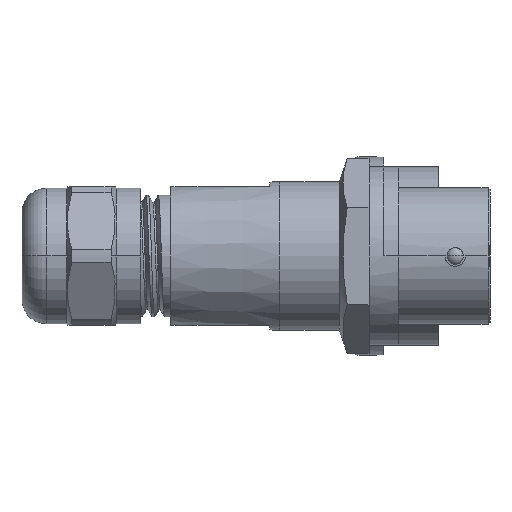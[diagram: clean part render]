
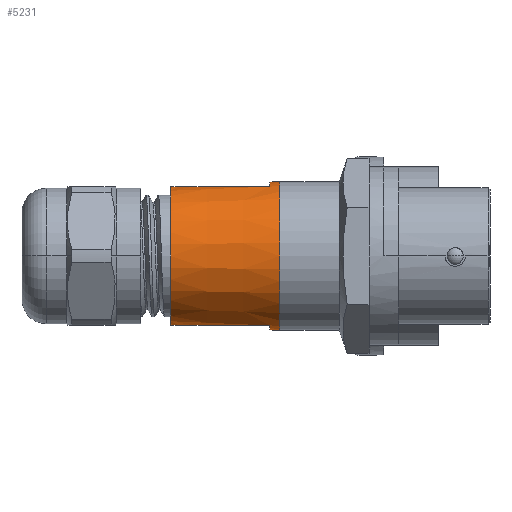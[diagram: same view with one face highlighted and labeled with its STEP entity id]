
A CAD part, front view. The second image highlights one B-rep face of the part: STEP entity #5231.
In plain terms, the highlighted conical face has half-angle 2.603 degrees and reference radius 7.25 mm.
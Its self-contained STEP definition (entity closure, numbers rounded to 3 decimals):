
#1662=CARTESIAN_POINT('',(-9.7,0.,0.));
#1663=DIRECTION('',(1.,0.,0.));
#1664=DIRECTION('',(0.,0.,1.));
#1665=AXIS2_PLACEMENT_3D('',#1662,#1663,#1664);
#1667=DIRECTION('',(-0.999,0.,0.045));
#1668=VECTOR('',#1667,1.001);
#1669=CARTESIAN_POINT('',(-9.7,0.,-7.5));
#1670=LINE('',#1669,#1668);
#1671=CARTESIAN_POINT('',(-10.7,-2.563,-7.));
#1672=CARTESIAN_POINT('',(-11.028,-2.52,
-7.));
#1673=CARTESIAN_POINT('',(-11.658,-2.435,
-7.));
#1674=CARTESIAN_POINT('',(-12.523,-2.312,
-7.));
#1675=CARTESIAN_POINT('',(-13.317,-2.194,
-7.));
#1676=CARTESIAN_POINT('',(-14.045,-2.081,
-7.));
#1677=CARTESIAN_POINT('',(-14.713,-1.972,
-7.));
#1678=CARTESIAN_POINT('',(-15.326,-1.866,
-7.));
#1679=CARTESIAN_POINT('',(-15.888,-1.764,
-7.));
#1680=CARTESIAN_POINT('',(-16.403,-1.666,
-7.));
#1681=CARTESIAN_POINT('',(-16.875,-1.571,
-7.));
#1682=CARTESIAN_POINT('',(-17.307,-1.478,
-7.));
#1683=CARTESIAN_POINT('',(-17.703,-1.389,
-7.));
#1684=CARTESIAN_POINT('',(-18.066,-1.301,
-7.));
#1685=CARTESIAN_POINT('',(-18.398,-1.216,
-7.));
#1686=CARTESIAN_POINT('',(-18.7,-1.133,
-7.));
#1687=CARTESIAN_POINT('',(-18.976,-1.051,
-7.));
#1688=CARTESIAN_POINT('',(-19.227,-0.972,
-7.));
#1689=CARTESIAN_POINT('',(-19.454,-0.893,
-7.));
#1690=CARTESIAN_POINT('',(-19.659,-0.816,
-7.));
#1691=CARTESIAN_POINT('',(-19.844,-0.74,
-7.));
#1692=CARTESIAN_POINT('',(-20.009,-0.665,
-7.));
#1693=CARTESIAN_POINT('',(-20.155,-0.591,
-7.));
#1694=CARTESIAN_POINT('',(-20.284,-0.517,
-7.));
#1695=CARTESIAN_POINT('',(-20.396,-0.442,
-7.));
#1696=CARTESIAN_POINT('',(-20.491,-0.368,
-7.));
#1697=CARTESIAN_POINT('',(-20.569,-0.292,
-7.));
#1698=CARTESIAN_POINT('',(-20.629,-0.217,
-7.));
#1699=CARTESIAN_POINT('',(-20.671,-0.142,
-7.));
#1700=CARTESIAN_POINT('',(-20.695,-0.068,
-7.));
#1701=CARTESIAN_POINT('',(-20.7,-0.022,
-7.));
#1702=CARTESIAN_POINT('',(-20.7,0.,-7.));
#1709=CARTESIAN_POINT('',(-10.7,0.,0.));
#1710=DIRECTION('',(1.,0.,0.));
#1711=DIRECTION('',(0.,0.,1.));
#1712=AXIS2_PLACEMENT_3D('',#1709,#1710,#1711);
#1745=CARTESIAN_POINT('',(-20.7,0.,7.));
#1752=DIRECTION('',(-0.999,0.,-0.045));
#1753=VECTOR('',#1752,1.001);
#1754=CARTESIAN_POINT('',(-9.7,0.,7.5));
#1755=LINE('',#1754,#1753);
#1760=CARTESIAN_POINT('',(-10.7,-2.563,7.));
#1761=CARTESIAN_POINT('',(-11.028,-2.52,
7.));
#1762=CARTESIAN_POINT('',(-11.658,-2.435,
7.));
#1763=CARTESIAN_POINT('',(-12.523,-2.312,
7.));
#1764=CARTESIAN_POINT('',(-13.317,-2.194,
7.));
#1765=CARTESIAN_POINT('',(-14.045,-2.081,
7.));
#1766=CARTESIAN_POINT('',(-14.713,-1.972,
7.));
#1767=CARTESIAN_POINT('',(-15.326,-1.866,
7.));
#1768=CARTESIAN_POINT('',(-15.888,-1.764,
7.));
#1769=CARTESIAN_POINT('',(-16.403,-1.666,
7.));
#1770=CARTESIAN_POINT('',(-16.875,-1.571,
7.));
#1771=CARTESIAN_POINT('',(-17.307,-1.478,
7.));
#1772=CARTESIAN_POINT('',(-17.703,-1.389,
7.));
#1773=CARTESIAN_POINT('',(-18.066,-1.301,
7.));
#1774=CARTESIAN_POINT('',(-18.398,-1.216,
7.));
#1775=CARTESIAN_POINT('',(-18.7,-1.133,
7.));
#1776=CARTESIAN_POINT('',(-18.976,-1.051,
7.));
#1777=CARTESIAN_POINT('',(-19.227,-0.972,
7.));
#1778=CARTESIAN_POINT('',(-19.454,-0.893,
7.));
#1779=CARTESIAN_POINT('',(-19.659,-0.816,
7.));
#1780=CARTESIAN_POINT('',(-19.844,-0.74,
7.));
#1781=CARTESIAN_POINT('',(-20.009,-0.665,
7.));
#1782=CARTESIAN_POINT('',(-20.155,-0.591,
7.));
#1783=CARTESIAN_POINT('',(-20.284,-0.517,
7.));
#1784=CARTESIAN_POINT('',(-20.396,-0.442,
7.));
#1785=CARTESIAN_POINT('',(-20.491,-0.368,
7.));
#1786=CARTESIAN_POINT('',(-20.569,-0.292,
7.));
#1787=CARTESIAN_POINT('',(-20.629,-0.217,
7.));
#1788=CARTESIAN_POINT('',(-20.671,-0.142,
7.));
#1789=CARTESIAN_POINT('',(-20.695,-0.068,
7.));
#1790=CARTESIAN_POINT('',(-20.7,-0.022,7.));
#1791=CARTESIAN_POINT('',(-20.7,0.,7.));
#1798=CARTESIAN_POINT('',(-20.7,0.,0.));
#1799=DIRECTION('',(1.,0.,0.));
#1800=DIRECTION('',(0.,0.,1.));
#1801=AXIS2_PLACEMENT_3D('',#1798,#1799,#1800);
#2581=CARTESIAN_POINT('',(-10.7,0.,0.));
#2582=DIRECTION('',(1.,0.,0.));
#2583=DIRECTION('',(0.,-0.344,-0.939));
#2584=AXIS2_PLACEMENT_3D('',#2581,#2582,#2583);
#2587=CARTESIAN_POINT('',(-10.7,0.,7.455));
#2589=VERTEX_POINT('',#2587);
#2590=VERTEX_POINT('',#1745);
#2591=CARTESIAN_POINT('',(-20.7,0.,-7.));
#2592=VERTEX_POINT('',#2591);
#2594=CARTESIAN_POINT('',(-10.7,0.,-7.455));
#2595=VERTEX_POINT('',#2594);
#2596=CARTESIAN_POINT('',(-9.7,0.,-7.5));
#2597=VERTEX_POINT('',#2596);
#2598=CARTESIAN_POINT('',(-9.7,0.,7.5));
#2599=VERTEX_POINT('',#2598);
#2600=CARTESIAN_POINT('',(-10.7,-2.563,7.));
#2601=VERTEX_POINT('',#2600);
#2602=CARTESIAN_POINT('',(-10.7,-2.563,-7.));
#2603=VERTEX_POINT('',#2602);
#5209=CARTESIAN_POINT('',(-15.2,0.,0.));
#5210=DIRECTION('',(1.,0.,0.));
#5211=DIRECTION('',(0.,0.,1.));
#5212=AXIS2_PLACEMENT_3D('',#5209,#5210,#5211);
#5213=CONICAL_SURFACE('',#5212,7.25,2.603);
#5215=ORIENTED_EDGE('',*,*,#5214,.F.);
#5217=ORIENTED_EDGE('',*,*,#5216,.F.);
#5218=ORIENTED_EDGE('',*,*,#5031,.T.);
#5220=ORIENTED_EDGE('',*,*,#5219,.T.);
#5222=ORIENTED_EDGE('',*,*,#5221,.F.);
#5224=ORIENTED_EDGE('',*,*,#5223,.T.);
#5226=ORIENTED_EDGE('',*,*,#5225,.F.);
#5228=ORIENTED_EDGE('',*,*,#5227,.F.);
#5229=EDGE_LOOP('',(#5215,#5217,#5218,#5220,#5222,#5224,#5226,#5228));
#5230=FACE_OUTER_BOUND('',#5229,.F.);
#5231=ADVANCED_FACE('',(#5230),#5213,.T.);
#1666=CIRCLE('',#1665,7.5);
#1703=B_SPLINE_CURVE_WITH_KNOTS('',3,(#1671,#1672,#1673,#1674,#1675,#1676,#1677,
#1678,#1679,#1680,#1681,#1682,#1683,#1684,#1685,#1686,#1687,#1688,#1689,#1690,
#1691,#1692,#1693,#1694,#1695,#1696,#1697,#1698,#1699,#1700,#1701,#1702),
.UNSPECIFIED.,.F.,.F.,(4,1,1,1,1,1,1,1,1,1,1,1,1,1,1,1,1,1,1,1,1,1,1,1,1,1,1,1,
1,4),(0.,0.034,0.069,0.103,
0.138,0.172,0.207,0.241,
0.276,0.31,0.345,0.379,
0.414,0.448,0.483,0.517,
0.552,0.586,0.621,0.655,
0.69,0.724,0.759,0.793,
0.828,0.862,0.897,0.931,
0.966,1.),.UNSPECIFIED.);
#1713=CIRCLE('',#1712,7.455);
#1792=B_SPLINE_CURVE_WITH_KNOTS('',3,(#1760,#1761,#1762,#1763,#1764,#1765,#1766,
#1767,#1768,#1769,#1770,#1771,#1772,#1773,#1774,#1775,#1776,#1777,#1778,#1779,
#1780,#1781,#1782,#1783,#1784,#1785,#1786,#1787,#1788,#1789,#1790,#1791),
.UNSPECIFIED.,.F.,.F.,(4,1,1,1,1,1,1,1,1,1,1,1,1,1,1,1,1,1,1,1,1,1,1,1,1,1,1,1,
1,4),(0.,0.034,0.069,0.103,
0.138,0.172,0.207,0.241,
0.276,0.31,0.345,0.379,
0.414,0.448,0.483,0.517,
0.552,0.586,0.621,0.655,
0.69,0.724,0.759,0.793,
0.828,0.862,0.897,0.931,
0.966,1.),.UNSPECIFIED.);
#1802=CIRCLE('',#1801,7.);
#2585=CIRCLE('',#2584,7.455);
#5031=EDGE_CURVE('',#2599,#2597,#1666,.T.);
#5214=EDGE_CURVE('',#2589,#2601,#1713,.T.);
#5216=EDGE_CURVE('',#2599,#2589,#1755,.T.);
#5219=EDGE_CURVE('',#2597,#2595,#1670,.T.);
#5221=EDGE_CURVE('',#2603,#2595,#2585,.T.);
#5223=EDGE_CURVE('',#2603,#2592,#1703,.T.);
#5225=EDGE_CURVE('',#2590,#2592,#1802,.T.);
#5227=EDGE_CURVE('',#2601,#2590,#1792,.T.);
